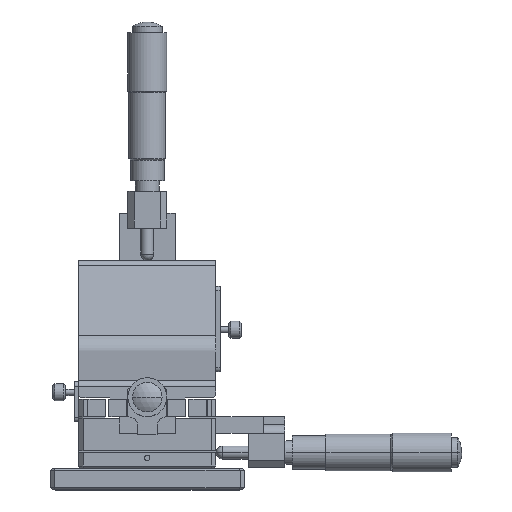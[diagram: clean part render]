
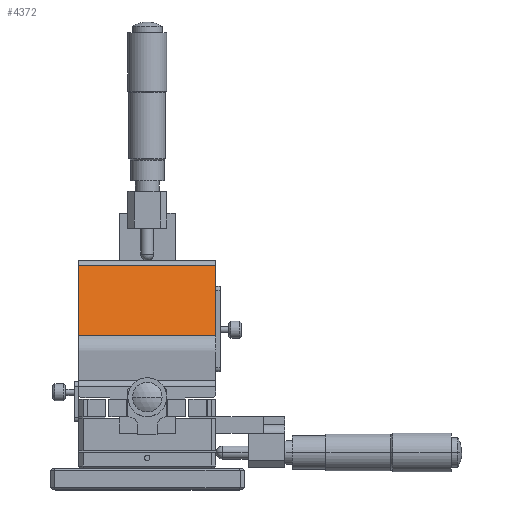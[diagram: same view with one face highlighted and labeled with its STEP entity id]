
A CAD part, top view. The second image highlights one B-rep face of the part: STEP entity #4372.
In plain terms, the highlighted planar face has unit normal (0, 0.259, 0.966) as drawn and (0.259, 0.966, 0) by its records, which use the part's own axes.
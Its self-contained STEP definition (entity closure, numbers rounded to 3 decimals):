
#244 = EDGE_CURVE ( 'NONE', #16717, #10620, #10965, .T. ) ;
#1409 = VECTOR ( 'NONE', #14125, 1000. ) ;
#4372 = ADVANCED_FACE ( 'NONE', ( #12888 ), #23612, .F. ) ;
#4616 = EDGE_CURVE ( 'NONE', #10620, #23406, #7395, .T. ) ;
#5731 = AXIS2_PLACEMENT_3D ( 'NONE', #21687, #19816, #8156 ) ;
#5910 = ORIENTED_EDGE ( 'NONE', *, *, #22632, .T. ) ;
#6134 = CARTESIAN_POINT ( 'NONE',  ( 28.629, 16.544, -31.75 ) ) ;
#6609 = CARTESIAN_POINT ( 'NONE',  ( 61.276, 7.796, -31.75 ) ) ;
#7395 = LINE ( 'NONE', #24372, #22882 ) ;
#7912 = ORIENTED_EDGE ( 'NONE', *, *, #4616, .F. ) ;
#8156 = DIRECTION ( 'NONE',  ( 0.966, -0.259, 0. ) ) ;
#8766 = LINE ( 'NONE', #6134, #18496 ) ;
#9777 = ORIENTED_EDGE ( 'NONE', *, *, #12550, .T. ) ;
#10620 = VERTEX_POINT ( 'NONE', #16046 ) ;
#10965 = LINE ( 'NONE', #11771, #20702 ) ;
#11462 = EDGE_LOOP ( 'NONE', ( #20534, #9777, #5910, #7912 ) ) ;
#11771 = CARTESIAN_POINT ( 'NONE',  ( 28.629, 16.544, 31.75 ) ) ;
#12550 = EDGE_CURVE ( 'NONE', #16717, #14354, #16944, .T. ) ;
#12888 = FACE_OUTER_BOUND ( 'NONE', #11462, .T. ) ;
#14125 = DIRECTION ( 'NONE',  ( 0., 0., -1. ) ) ;
#14354 = VERTEX_POINT ( 'NONE', #6609 ) ;
#16046 = CARTESIAN_POINT ( 'NONE',  ( 28.629, 16.544, 31.75 ) ) ;
#16067 = CARTESIAN_POINT ( 'NONE',  ( 61.276, 7.796, 31.75 ) ) ;
#16311 = CARTESIAN_POINT ( 'NONE',  ( 61.276, 7.796, 31.75 ) ) ;
#16717 = VERTEX_POINT ( 'NONE', #16311 ) ;
#16944 = LINE ( 'NONE', #16067, #1409 ) ;
#17807 = DIRECTION ( 'NONE',  ( -0.966, 0.259, 0. ) ) ;
#18496 = VECTOR ( 'NONE', #17807, 1000. ) ;
#19509 = DIRECTION ( 'NONE',  ( -0.966, 0.259, 0. ) ) ;
#19816 = DIRECTION ( 'NONE',  ( -0.259, -0.966, 0. ) ) ;
#20311 = CARTESIAN_POINT ( 'NONE',  ( 28.629, 16.544, -31.75 ) ) ;
#20475 = DIRECTION ( 'NONE',  ( 0., 0., -1. ) ) ;
#20534 = ORIENTED_EDGE ( 'NONE', *, *, #244, .F. ) ;
#20702 = VECTOR ( 'NONE', #19509, 1000. ) ;
#21687 = CARTESIAN_POINT ( 'NONE',  ( 28.629, 16.544, 31.75 ) ) ;
#22632 = EDGE_CURVE ( 'NONE', #14354, #23406, #8766, .T. ) ;
#22882 = VECTOR ( 'NONE', #20475, 1000. ) ;
#23406 = VERTEX_POINT ( 'NONE', #20311 ) ;
#23612 = PLANE ( 'NONE',  #5731 ) ;
#24372 = CARTESIAN_POINT ( 'NONE',  ( 28.629, 16.544, 31.75 ) ) ;
